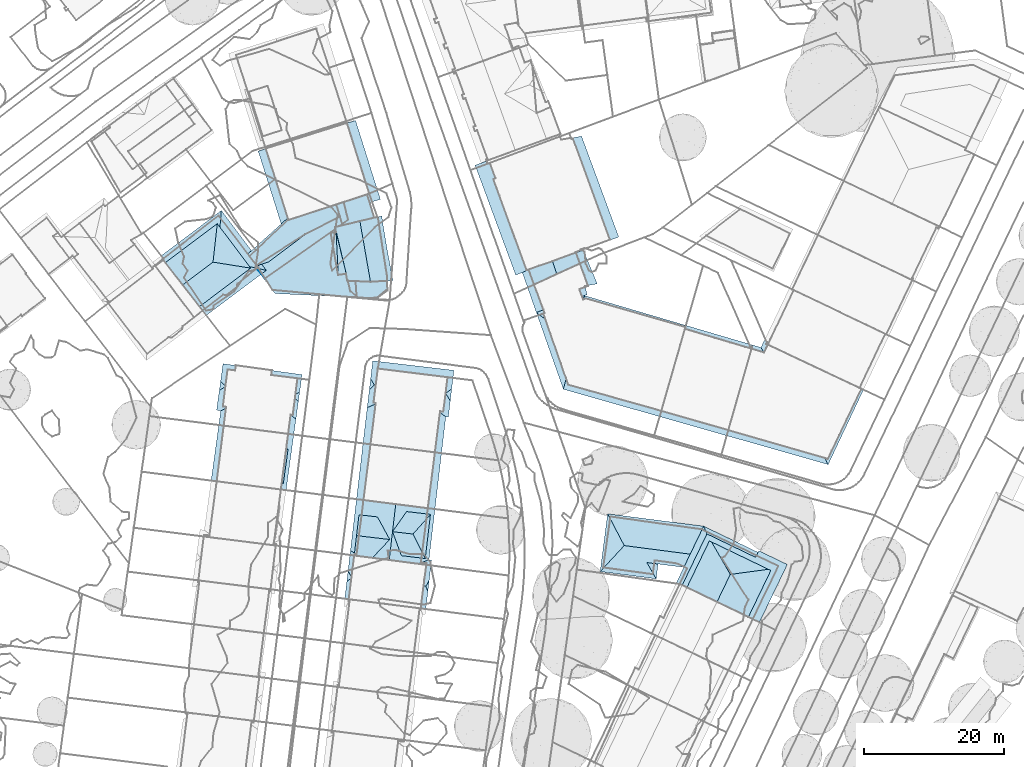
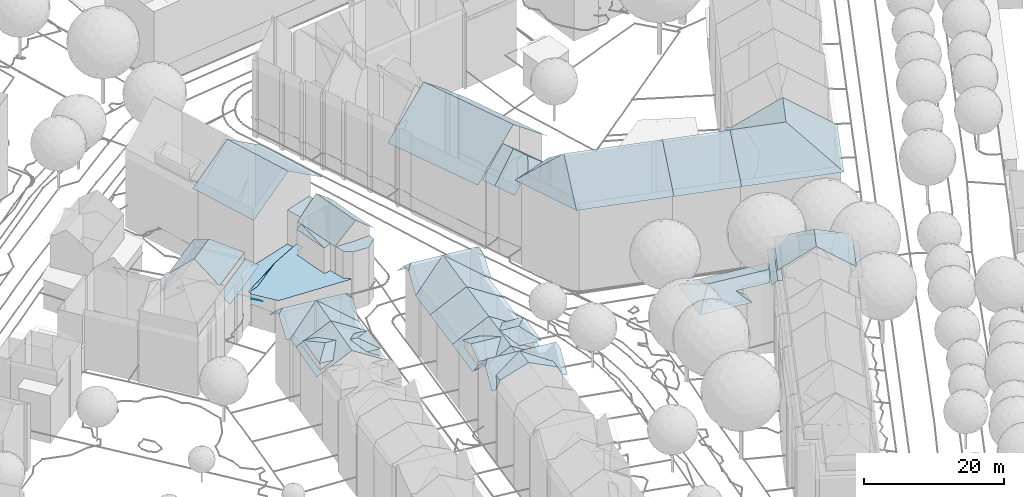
# Not in any storey, part 68 of 494: 24 roofs.
"""IFC2X3 model written with IfcOpenShell, lengths in metres."""

from ifc_helpers import new_model, si_unit, frame, origin_with_axes, place, context, subcontext, project, faceted_brep, element, save


model = new_model("IFC2X3")

# Units and contexts
model_context = context("Model", 3, precision=1e-05, world=origin_with_axes())
body_context = subcontext(model_context, "Body", "Model", "MODEL_VIEW")
ifc_project = project(units=[si_unit("AREAUNIT", "SQUARE_METRE"), si_unit("LENGTHUNIT", "METRE")], contexts=[model_context])

# Roofs
roof_1_placement = place(None, frame((497.3297320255, 81.7703160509, 498.9665), z_axis=(0.0, 0.0, 1.0), x_axis=(1.0, 0.0, 0.0)))
element("IfcRoof", 1, at=roof_1_placement, Name="Roof 0", ShapeType="NOTDEFINED", context=body_context, shape_type="Brep", body=[
    faceted_brep([(6.2120000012, 0.7344000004, 12.2968), (2.9840000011, 3.1582000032, 13.1607), (7.0950000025, -0.8056999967, 11.5669), (6.9140000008, -0.931599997, 11.4689), (7.5419999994, -1.5858999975, 11.1979), (7.2840000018, 0.5957000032, 12.2968), (7.8139999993, 0.5263999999, 12.2968), (7.8139999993, 0.5263999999, 11.1979), (7.2840000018, 0.5957000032, 11.5619), (6.5040000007, 0.6963, 12.0968), (0.0540000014, -0.0067999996, 11.4879), (-0.4529999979, -0.5546999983, 11.1979), (0.9920000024, 6.9688000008, 11.5129), (0.6110000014, 7.6963, 11.1979), (12.9900000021, 5.6045000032, 11.4279), (14.319000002, 5.9297000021, 11.1979), (12.3940000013, 1.9346000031, 13.1607), (11.4880000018, 0.0537, 12.2968), (11.5140000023, 0.1094000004, 12.3228)], [[[0, 1, 2]], [[3, 4, 2]], [[3, 2, 1]], [[5, 6, 1]], [[1, 0, 5]], [[4, 7, 2]], [[2, 7, 8]], [[9, 0, 2]], [[9, 2, 8]], [[10, 11, 3]], [[10, 3, 1]], [[3, 11, 4]], [[12, 13, 10]], [[10, 1, 12]], [[11, 10, 13]], [[14, 15, 13]], [[12, 1, 14]], [[13, 12, 14]], [[14, 1, 16]], [[14, 16, 15]], [[17, 18, 1]], [[1, 6, 17]], [[1, 18, 16]]]),
])
roof_2_placement = place(None, frame((497.3297320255, 81.7703160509, 498.9665), z_axis=(0.0, 0.0, 1.0), x_axis=(1.0, 0.0, 0.0)))
element("IfcRoof", 2, at=roof_2_placement, Name="Roof 1", ShapeType="NOTDEFINED", context=body_context, shape_type="Brep", body=[
    faceted_brep([(14.7829999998, 4.8262000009, 14.2666), (21.7360000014, 1.4785000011, 14.2666), (21.8320000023, 1.6797000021, 14.0666), (21.8530000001, 1.7226999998, 14.0236), (14.6390000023, 5.1670000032, 14.0466), (22.0789999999, 2.1914000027, 13.5567), (14.319000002, 5.9297000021, 13.5567), (11.2479999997, -2.5136999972, 14.2666), (11.9240000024, -2.8388999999, 14.2666), (15.1330000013, 3.8252000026, 14.2666), (23.9020000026, -0.3983999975, 14.2666), (20.6960000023, -7.0546999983, 14.2666), (22.2730000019, -7.8125, 14.2666), (22.1889999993, 2.4219000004, 14.2666), (26.2580000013, 0.4609000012, 14.2666), (10.9480000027, -2.369099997, 14.0036), (10.3610000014, -2.2861000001, 13.5567), (10.9070000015, -2.3632999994, 13.9726), (11.5160000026, 0.1104000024, 13.5567), (14.0810000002, 5.4346000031, 13.5567)], [[[0, 1, 2]], [[2, 3, 4]], [[5, 4, 3]], [[4, 5, 6]], [[0, 2, 4]], [[7, 8, 9]], [[7, 9, 0]], [[1, 0, 9]], [[10, 11, 12]], [[10, 13, 1]], [[14, 13, 10]], [[10, 1, 9]], [[10, 12, 14]], [[15, 7, 0]], [[16, 17, 18]], [[15, 4, 17]], [[4, 18, 17]], [[19, 18, 4]], [[6, 19, 4]], [[4, 15, 0]]]),
])
roof_3_placement = place(None, frame((497.3297320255, 81.7703160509, 498.9665), z_axis=(0.0, 0.0, 1.0), x_axis=(1.0, 0.0, 0.0)))
element("IfcRoof", 3, at=roof_3_placement, Name="Roof 2", ShapeType="NOTDEFINED", context=body_context, shape_type="Brep", body=[
    faceted_brep([(20.6960000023, -7.0546999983, 16.6283), (21.3720000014, -7.3798999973, 16.1304), (23.5510000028, -0.2294999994, 16.8863), (16.2129999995, -4.8993999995, 19.927), (18.1119999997, -0.9569999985, 19.927), (24.9030000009, -0.0487999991, 16.1304), (15.4460000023, 3.6748000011, 16.8863), (14.7829999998, 4.8262000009, 16.1304), (11.2479999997, -2.5136999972, 16.1304), (11.9240000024, -2.8388999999, 16.6474), (21.0140000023, 0.9932000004, 16.8863), (21.7360000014, 1.4785000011, 16.1304)], [[[0, 1, 2]], [[3, 0, 4]], [[2, 4, 0]], [[5, 2, 1]], [[6, 7, 8]], [[4, 6, 9]], [[4, 9, 3]], [[9, 6, 8]], [[10, 11, 6]], [[6, 4, 10]], [[7, 6, 11]], [[10, 4, 2]], [[10, 5, 11]], [[5, 10, 2]]]),
])
roof_4_placement = place(None, frame((442.1807320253, 94.0682160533, 499.5705), z_axis=(0.0, 0.0, 1.0), x_axis=(1.0, 0.0, 0.0)))
element("IfcRoof", 4, at=roof_4_placement, Name="Roof 0", ShapeType="NOTDEFINED", context=body_context, shape_type="Brep", body=[
    faceted_brep([(10.1900000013, 6.7645999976, 11.8809), (5.6590000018, 7.3456999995, 14.5366), (8.075000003, 4.927699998, 12.9527), (6.1710000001, 2.7567999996, 13.8767), (8.4150000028, 4.8797999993, 12.7528), (10.9720000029, 6.6640000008, 11.4229), (9.9170000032, 4.6688999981, 11.8708), (9.8740000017, -1.2646999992, 11.4229), (4.5610000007, -0.5840000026, 14.5366), (7.3949999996, 0.0174999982, 12.9527), (9.1579999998, -1.1729000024, 11.8428), (9.2780000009, -0.2470999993, 11.8468), (7.7360000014, -0.0303000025, 12.7528), (0.9990000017, 7.9422999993, 11.8429), (0.2730000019, 8.0350999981, 11.4229), (0.8740000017, 6.9442999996, 11.8499), (0.6770000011, 5.4061999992, 11.8589), (0.443, 3.5506999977, 11.8729), (2.5789999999, 6.7148000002, 12.8368), (2.9250000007, 6.6678999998, 13.0367), (4.2470000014, 3.4217999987, 14.0426), (0.0990000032, 0.7909999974, 11.8939), (-0.8249999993, 0.1053999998, 11.4229), (0.0, 0.0, 11.8999), (2.075000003, 0.5233999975, 13.0367), (1.7280000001, 0.5702999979, 12.8368), (0.8740000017, 6.9442999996, 13.0367), (0.8420000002, 6.9481999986, 13.0367), (2.6030000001, 3.6435000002, 14.0426), (-0.0079999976, 0.8055999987, 13.0367), (0.1000000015, 0.7909999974, 13.0367), (9.2780000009, -0.2470999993, 12.9527), (9.4850000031, -0.2763999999, 12.9527), (7.3030000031, 2.5975999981, 13.8767), (10.1650000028, 4.6338, 12.9527), (9.9170000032, 4.6688999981, 12.9527), (8.9620000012, -0.2032000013, 12.9027)], [[[0, 1, 2]], [[2, 1, 3]], [[0, 2, 4]], [[5, 0, 6]], [[6, 0, 4]], [[5, 6, 7]], [[3, 8, 9]], [[8, 3, 1]], [[9, 8, 10]], [[11, 12, 10]], [[10, 7, 11]], [[12, 9, 10]], [[11, 7, 6]], [[13, 14, 15]], [[16, 15, 14]], [[14, 17, 16]], [[13, 15, 18]], [[1, 19, 20]], [[1, 13, 19]], [[13, 18, 19]], [[1, 20, 8]], [[21, 17, 22]], [[21, 22, 23]], [[17, 14, 22]], [[24, 25, 23]], [[23, 8, 24]], [[25, 21, 23]], [[8, 20, 24]], [[26, 27, 28]], [[19, 28, 20]], [[28, 19, 26]], [[27, 29, 28]], [[20, 28, 24]], [[24, 28, 30]], [[29, 30, 28]], [[31, 32, 33]], [[31, 3, 9]], [[3, 31, 33]], [[34, 33, 32]], [[2, 3, 35]], [[35, 3, 33]], [[34, 35, 33]], [[36, 31, 12]]]),
])
roof_5_placement = place(None, frame((443.0627320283, 104.7566160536, 499.5705), z_axis=(0.0, 0.0, 1.0), x_axis=(1.0, 0.0, 0.0)))
element("IfcRoof", 5, at=roof_5_placement, Name="Roof 0", ShapeType="NOTDEFINED", context=body_context, shape_type="Brep", body=[
    faceted_brep([(10.3999999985, -1.7851000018, 11.4229), (10.75, 0.745199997, 13.8817), (9.6659999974, -1.1816000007, 11.8959), (10.0899999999, -4.0243999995, 11.4229), (4.7769999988, -3.3427000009, 14.5366), (9.3079999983, -3.9238000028, 11.8809), (9.8779999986, 1.5517999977, 14.5366), (5.5379999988, 2.1534000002, 14.5366), (10.2789999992, 1.1807000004, 14.2356), (6.987999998, 5.1581999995, 11.4229), (10.3559999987, 1.7900999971, 14.2416), (10.9349999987, 2.0771999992, 13.8847), (11.2789999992, 4.5634999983, 11.4229), (-0.9220000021, -0.4970000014, 11.4229), (-0.3220000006, -0.5800000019, 11.4229), (0.4339999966, -0.2275000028, 11.8249), (-0.5320000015, 2.3066999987, 13.9337), (0.3449999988, 2.8720999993, 14.5366), (0.1169999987, -2.746100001, 11.8429), (-0.6090000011, -2.6533000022, 11.4229), (1.8369999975, 5.8720999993, 11.4229), (-0.3490000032, 3.6376999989, 13.8847), (-0.0050000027, 6.1270000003, 11.4229)], [[[0, 1, 2]], [[2, 3, 0]], [[2, 4, 5]], [[3, 2, 5]], [[6, 7, 2]], [[8, 2, 1]], [[2, 8, 6]], [[6, 9, 7]], [[9, 6, 10]], [[8, 1, 11]], [[8, 10, 6]], [[10, 8, 11]], [[11, 9, 10]], [[9, 11, 12]], [[13, 14, 15]], [[13, 15, 7]], [[16, 7, 17]], [[7, 16, 13]], [[4, 7, 18]], [[18, 7, 15]], [[19, 18, 15]], [[19, 15, 14]], [[4, 2, 7]], [[20, 7, 9]], [[7, 20, 17]], [[17, 20, 21]], [[21, 20, 22]], [[21, 16, 17]]]),
])
roof_6_placement = place(None, frame((461.8007320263, 83.4783160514, 499.4055), z_axis=(0.0, 0.0, 1.0), x_axis=(1.0, 0.0, 0.0)))
element("IfcRoof", 6, at=roof_6_placement, Name="Roof 0", ShapeType="NOTDEFINED", context=body_context, shape_type="Brep", body=[
    faceted_brep([(9.5089999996, 0.8262000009, 14.3076), (10.1209999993, -0.3915999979, 13.9566), (10.8610000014, 5.9033000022, 13.9566), (9.9910000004, 4.9209000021, 14.3076), (8.3709999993, 3.0938000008, 14.9615), (6.9670000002, 5.6055000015, 14.1996), (5.443, 3.438500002, 14.9525), (7.4580000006, 6.3037, 13.9566), (6.425999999, 0.7989000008, 14.1856), (6.7199999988, 0.0088, 13.9566)], [[[0, 1, 2]], [[3, 4, 0]], [[2, 3, 0]], [[5, 6, 2]], [[3, 6, 4]], [[5, 2, 7]], [[2, 6, 3]], [[6, 8, 4]], [[4, 8, 0]], [[9, 1, 0]], [[9, 0, 8]]]),
])
roof_7_placement = place(None, frame((461.8007320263, 83.4783160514, 499.4055), z_axis=(0.0, 0.0, 1.0), x_axis=(1.0, 0.0, 0.0)))
element("IfcRoof", 7, at=roof_7_placement, Name="Roof 1", ShapeType="NOTDEFINED", context=body_context, shape_type="Brep", body=[
    faceted_brep([(5.0480000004, 2.3164000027, 14.7936), (0.313000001, 2.8731000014, 14.7936), (2.6339999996, -0.2421999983, 13.5367), (0.0080000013, 0.0655000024, 13.5367), (-0.0170000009, 0.0683999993, 13.5367), (0.6620000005, 5.8487000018, 13.5367), (1.0560000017, 5.8027999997, 13.5367), (3.300999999, 5.5391000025, 13.5367), (4.6330000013, 3.0742000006, 14.4976), (5.443, 3.438500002, 14.9525), (5.9039999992, 7.3311000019, 14.9505), (4.6160000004, 7.4951000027, 14.1796), (1.3229999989, 7.9131000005, 12.1988), (0.2989999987, 8.0439999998, 11.5829), (1.0560000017, 5.8027999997, 12.1878), (-0.5590000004, 0.7412, 11.5829), (2.9679999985, 5.5780999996, 13.3367), (4.9730000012, -0.6435000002, 14.9465), (0.2300000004, 0.2237000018, 12.0838), (0.4750000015, 1.2061000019, 12.1638), (2.3000000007, -0.2040999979, 13.3367), (0.7069999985, -0.0918000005, 12.3868), (0.569000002, -0.0009999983, 12.2988), (0.3489999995, 0.2071000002, 12.1558), (6.1099999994, 3.8740000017, 14.5876), (7.300999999, 5.5664000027, 13.9996), (5.7749999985, 3.3993999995, 14.7536), (6.0560000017, 2.6504000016, 14.5336), (11.4979999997, 6.6220999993, 11.5829), (8.4849999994, 5.4277999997, 13.2867), (10.0289999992, 5.246100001, 12.3588), (10.6519999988, -0.5760999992, 11.5828), (6.4120000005, 1.7050999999, 14.2576), (7.6070000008, 0.6572000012, 13.4747), (6.7589999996, 0.759800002, 13.9856), (9.0280000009, -1.1699000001, 12.5048), (9.4640000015, 0.4405000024, 12.3588), (8.0520000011, 0.6055000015, 13.2077), (9.5230000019, -0.9912, 12.2248), (0.0080000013, 0.0655000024, 12.2988), (-0.6359999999, 0.0821000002, 12.3678), (0.0320000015, 0.2481000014, 12.0808), (10.2780000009, -1.3319999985, 12.5228), (10.9290000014, -1.4169999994, 12.5328), (11.0219999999, -0.6191000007, 11.5828), (4.9730000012, -0.6436999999, 14.7466), (2.6339999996, -0.2421999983, 13.3367), (2.6400000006, -0.2430999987, 13.3407)], [[[0, 1, 2]], [[2, 1, 3]], [[3, 1, 4]], [[5, 1, 6]], [[7, 1, 8]], [[6, 1, 7]], [[8, 1, 0]], [[9, 10, 11]], [[12, 13, 14]], [[14, 13, 15]], [[11, 12, 16]], [[14, 16, 12]], [[9, 8, 0]], [[8, 9, 7]], [[17, 0, 2]], [[9, 0, 17]], [[16, 7, 11]], [[9, 11, 7]], [[15, 18, 19]], [[19, 14, 15]], [[2, 20, 21]], [[2, 21, 17]], [[21, 20, 22]], [[18, 23, 19]], [[10, 24, 25]], [[24, 10, 9]], [[9, 26, 24]], [[26, 9, 27]], [[28, 29, 30]], [[28, 10, 29]], [[10, 25, 29]], [[28, 30, 31]], [[32, 27, 17]], [[33, 34, 17]], [[17, 34, 32]], [[33, 17, 35]], [[27, 9, 17]], [[36, 37, 35]], [[36, 38, 31]], [[38, 36, 35]], [[37, 33, 35]], [[36, 31, 30]], [[21, 22, 39]], [[21, 39, 40]], [[15, 41, 18]], [[15, 39, 41]], [[39, 15, 40]], [[42, 43, 31]], [[31, 43, 44]], [[38, 35, 42]], [[31, 38, 42]], [[45, 46, 47]]]),
])
roof_8_placement = place(None, frame((463.1237320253, 91.3914160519, 499.4055), z_axis=(0.0, 0.0, 1.0), x_axis=(1.0, 0.0, 0.0)))
element("IfcRoof", 8, at=roof_8_placement, Name="Roof 0", ShapeType="NOTDEFINED", context=body_context, shape_type="Brep", body=[
    faceted_brep([(5.5230000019, 7.3867000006, 14.9476), (1.6009999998, 7.875, 12.5998), (4.5810000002, -0.5810000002, 14.9505), (3.2930000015, -0.4179999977, 14.1796), (9.182, -1.1649999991, 12.1808), (10.1920000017, 6.8047000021, 12.1368), (10.1750000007, -1.2910000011, 11.5829), (11.1119999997, 6.6895000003, 11.5829), (0.0, 0.0, 12.1988), (-0.0889999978, 8.0888999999, 11.5829), (-1.0240000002, 0.1308999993, 11.5829), (1.0050000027, 7.9501999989, 12.2408), (0.2460000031, 8.0459000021, 11.6729), (0.756000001, 7.9824000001, 12.0408)], [[[0, 1, 2]], [[3, 2, 1]], [[4, 0, 2]], [[5, 4, 6]], [[5, 0, 4]], [[5, 6, 7]], [[8, 9, 10]], [[11, 8, 3]], [[11, 9, 8]], [[1, 11, 3]], [[12, 11, 13]]]),
])
roof_9_placement = place(None, frame((461.0127320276, 77.240016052, 499.4055), z_axis=(0.0, 0.0, 1.0), x_axis=(1.0, 0.0, 0.0)))
element("IfcRoof", 9, at=roof_9_placement, Name="Roof 0", ShapeType="NOTDEFINED", context=body_context, shape_type="Brep", body=[
    faceted_brep([(5.5199999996, 3.4990999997, 14.9435), (9.8159999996, 5.0683999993, 12.5048), (5.7609999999, 5.5947999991, 14.9465), (1.4949999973, 6.1464999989, 12.3868), (5.0350000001, -0.6435000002, 16.0924), (5.4079999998, 2.5342000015, 16.0924), (0.8099999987, 1.3047000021, 14.2016), (0.6469999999, -0.0830000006, 14.2016), (9.4769999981, -1.2098999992, 14.1246), (9.6499999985, 0.2657000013, 14.1246), (10.9949999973, 1.8770000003, 16.0924), (11.4699999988, 2.7188000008, 15.0385), (0.3979999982, 3.1220999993, 16.0924), (-0.1110000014, 4.0800999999, 15.0385), (0.7879999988, 6.2382999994, 12.3768), (0.1519999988, 6.3203999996, 12.3678), (11.0659999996, 4.9052999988, 12.5228), (11.7170000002, 4.8213, 12.5328), (11.2839999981, 1.1358000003, 15.3065), (10.9859999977, -1.4023000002, 12.4458), (10.2249999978, -1.3055999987, 12.4538), (10.2780000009, -1.3125, 12.4538), (0.1349999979, -0.0185000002, 12.7047), (0.0, 0.0, 12.7067), (-0.5820000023, 0.0733000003, 12.7127), (-0.2970000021, 2.496100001, 15.3365)], [[[0, 1, 2]], [[3, 0, 2]], [[4, 5, 6]], [[6, 7, 4]], [[8, 9, 5]], [[5, 4, 8]], [[10, 0, 5]], [[11, 0, 10]], [[0, 12, 5]], [[0, 13, 12]], [[13, 3, 14]], [[13, 0, 3]], [[13, 14, 15]], [[0, 11, 1]], [[1, 11, 16]], [[16, 11, 17]], [[18, 11, 10]], [[9, 19, 18]], [[18, 10, 9]], [[5, 9, 10]], [[20, 21, 9]], [[9, 21, 19]], [[20, 9, 8]], [[6, 22, 7]], [[23, 22, 6]], [[24, 23, 6]], [[6, 5, 12]], [[12, 25, 6]], [[6, 25, 24]], [[13, 25, 12]]]),
])
roof_10_placement = place(None, frame((464.128732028, 99.3416160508, 499.4055), z_axis=(0.0, 0.0, 1.0), x_axis=(1.0, 0.0, 0.0)))
element("IfcRoof", 10, at=roof_10_placement, Name="Roof 0", ShapeType="NOTDEFINED", context=body_context, shape_type="Brep", body=[
    faceted_brep([(5.5219999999, 7.9248000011, 14.9436), (11.3640000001, 6.2295000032, 13.9347), (10.7149999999, 7.3154000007, 14.9436), (9.9100000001, 4.568400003, 12.1058), (10.7190000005, 3.9502000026, 11.5829), (11.0899999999, 3.9072000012, 11.5829), (11.568, 7.9678000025, 14.2026), (-0.0050000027, 9.3984000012, 14.1346), (11.8779999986, 10.5986000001, 11.5829), (0.5119999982, 8.5137000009, 14.9436), (0.2949999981, 11.9600000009, 11.5829), (-0.4910000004, 5.2675999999, 11.5829), (0.7339999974, 5.8096000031, 12.2678), (-0.1950000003, 7.7920000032, 14.1396), (4.5179999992, -0.5625, 14.9476), (0.2229999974, 1.7637000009, 12.2498), (0.5969999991, -0.0741999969, 12.5998), (9.186999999, -1.1454999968, 12.1368), (10.106999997, -1.2606999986, 11.5829), (-1.0940000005, 0.1387000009, 11.5829), (0.0, 0.0, 12.2408)], [[[0, 1, 2]], [[1, 0, 3]], [[3, 4, 5]], [[3, 5, 1]], [[0, 6, 7]], [[0, 2, 6]], [[6, 8, 7]], [[7, 9, 0]], [[7, 8, 10]], [[11, 12, 13]], [[13, 12, 0]], [[0, 9, 13]], [[14, 15, 16]], [[15, 14, 12]], [[15, 12, 11]], [[12, 14, 0]], [[3, 0, 14]], [[4, 3, 17]], [[17, 18, 4]], [[14, 17, 3]], [[15, 11, 19]], [[20, 16, 15]], [[20, 15, 19]], [[1, 6, 2]], [[7, 13, 9]]]),
])
roof_11_placement = place(None, frame((449.1887320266, 141.5721160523, 498.8726), z_axis=(0.0, 0.0, 1.0), x_axis=(1.0, 0.0, 0.0)))
element("IfcRoof", 11, at=roof_11_placement, Name="Roof 0", ShapeType="NOTDEFINED", context=body_context, shape_type="Brep", body=[
    faceted_brep([(16.3289999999, -7.2236999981, 14.0316), (9.0549999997, -8.308600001, 18.8312), (9.4019999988, -9.4072999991, 18.8312), (11.5839999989, 3.6523000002, 14.8606), (5.8530000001, 1.8456999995, 18.8312), (12.7800000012, 4.0293000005, 14.0317), (4.1420000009, 1.3055999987, 17.6513), (0.0, 0.0, 14.7966), (2.4400000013, -11.6035000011, 14.0317), (-1.1090000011, -0.3506000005, 14.0317)], [[[0, 1, 2]], [[1, 0, 3]], [[3, 4, 1]], [[0, 5, 3]], [[6, 7, 8]], [[4, 6, 1]], [[8, 1, 6]], [[2, 1, 8]], [[8, 7, 9]]]),
])
roof_12_placement = place(None, frame((446.8647320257, 126.2293160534, 498.9746), z_axis=(0.0, 0.0, 1.0), x_axis=(1.0, 0.0, 0.0)))
element("IfcRoof", 12, at=roof_12_placement, Name="Roof 0", ShapeType="NOTDEFINED", context=body_context, shape_type="Brep", body=[
    faceted_brep([(15.3060000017, -5.8905999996, 5.8744), (15.2950000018, -5.7412, 5.8744), (13.5, -5.8047000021, 5.8744), (14.3969999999, -5.0459000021, 5.8744), (13.9420000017, -3.5371000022, 5.8744), (14.0300000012, -3.5419999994, 5.8744), (7.9330000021, 3.1122999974, 5.8744), (3.6190000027, -5.3330000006, 5.8744), (12.6410000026, -2.6982000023, 5.8744), (13.7829999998, -2.5303000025, 5.8744), (1.2530000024, -1.625, 5.8744), (0.9560000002, -1.8544999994, 5.8744), (11.5960000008, 3.2714999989, 5.8744), (12.3340000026, 3.4003999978, 5.8744), (12.2060000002, 4.1317999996, 5.8744), (13.2910000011, 4.3905999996, 5.8744), (12.9100000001, 5.6386999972, 5.8744), (1.0100000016, -1.3066000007, 5.8744)], [[[0, 1, 2]], [[2, 3, 4]], [[3, 2, 1]], [[5, 4, 3]], [[6, 7, 8]], [[9, 8, 4]], [[4, 8, 2]], [[2, 8, 7]], [[10, 11, 7]], [[12, 13, 14]], [[6, 8, 12]], [[7, 6, 10]], [[15, 16, 14]], [[6, 14, 16]], [[14, 6, 12]], [[17, 10, 6]]]),
])
roof_13_placement = place(None, frame((446.8647320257, 126.2293160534, 498.9746), z_axis=(0.0, 0.0, 1.0), x_axis=(1.0, 0.0, 0.0)))
element("IfcRoof", 13, at=roof_13_placement, Name="Roof 1", ShapeType="NOTDEFINED", context=body_context, shape_type="Brep", body=[
    faceted_brep([(12.3839999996, 7.3612999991, 10.8799), (13.2910000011, 4.3905999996, 10.8799), (17.8020000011, 5.4668000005, 10.8799), (16.7880000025, 8.7919999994, 10.8799)], [[[0, 1, 2]], [[0, 2, 3]]]),
])
roof_14_placement = place(None, frame((446.8647320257, 126.2293160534, 498.9746), z_axis=(0.0, 0.0, 1.0), x_axis=(1.0, 0.0, 0.0)))
element("IfcRoof", 14, at=roof_14_placement, Name="Roof 2", ShapeType="NOTDEFINED", context=body_context, shape_type="Brep", body=[
    faceted_brep([(2.7270000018, -0.7979000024, 5.8744), (7.9330000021, 3.1122999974, 5.8744), (1.0650000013, -1.3789000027, 5.8744), (1.0100000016, -1.3066000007, 5.8744)], [[[0, 1, 2]], [[2, 1, 3]]]),
])
roof_15_placement = place(None, frame((446.8647320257, 126.2293160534, 498.9746), z_axis=(0.0, 0.0, 1.0), x_axis=(1.0, 0.0, 0.0)))
element("IfcRoof", 15, at=roof_15_placement, Name="Roof 3", ShapeType="NOTDEFINED", context=body_context, shape_type="Brep", body=[
    faceted_brep([(1.006000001, -1.8154000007, 4.9995), (2.2050000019, -3.1992000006, 4.9995), (2.2300000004, -3.1816000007, 4.9995), (1.2600000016, -1.6699000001, 4.9995), (1.2530000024, -1.625, 4.9995)], [[[0, 1, 2]], [[0, 2, 3]], [[4, 0, 3]]]),
])
roof_16_placement = place(None, frame((446.8647320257, 126.2293160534, 498.9746), z_axis=(0.0, 0.0, 1.0), x_axis=(1.0, 0.0, 0.0)))
element("IfcRoof", 16, at=roof_16_placement, Name="Roof 4", ShapeType="NOTDEFINED", context=body_context, shape_type="Brep", body=[
    faceted_brep([(5.5620000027, 5.1444999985, 4.9995), (-0.2479999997, 0.3398000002, 4.9995), (6.7109999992, 5.5175999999, 4.9995), (7.9330000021, 3.1122999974, 4.9995), (0.5140000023, -0.6581999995, 4.9995), (1.0080000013, -1.3076000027, 4.9995), (5.4600000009, 5.4648000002, 4.9995), (12.9100000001, 5.6386999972, 4.9995), (12.3839999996, 7.3612999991, 4.9995)], [[[0, 1, 2]], [[3, 4, 5]], [[2, 1, 4]], [[0, 6, 1]], [[3, 7, 8]], [[8, 2, 3]], [[4, 3, 2]]]),
])
roof_17_placement = place(None, frame((446.8647320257, 126.2293160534, 498.9746), z_axis=(0.0, 0.0, 1.0), x_axis=(1.0, 0.0, 0.0)))
element("IfcRoof", 17, at=roof_17_placement, Name="Roof 5", ShapeType="NOTDEFINED", context=body_context, shape_type="Brep", body=[
    faceted_brep([(18.8470000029, 2.1182000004, 11.9148), (15.7310000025, 4.9726999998, 14.0676), (19.0940000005, 0.5263999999, 11.9398), (19.5219999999, 1.5, 11.4479), (17.2440000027, -3.6895000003, 14.0676), (18.8489999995, 5.7245999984, 11.4479), (18.5840000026, 3.8134999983, 11.8978), (19.1760000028, 3.5722999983, 11.4479), (13.7829999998, -2.5303000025, 10.556), (12.2060000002, 4.1317999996, 10.9209), (12.3340000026, 3.4003999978, 10.9209), (12.6410000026, -2.6982000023, 10.268), (11.5960000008, 3.2714999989, 10.268), (19.6130000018, -2.8115000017, 10.556), (19.6220000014, -2.2129000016, 10.556), (19.5170000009, -2.1933999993, 10.556), (19.637000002, -3.5371000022, 10.5559), (17.9519999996, -6.1152000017, 10.5559), (19.6750000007, -4.6504000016, 10.5559), (17.2440000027, -3.6895000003, 10.556), (14.1300000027, -3.5469000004, 10.556), (14.0300000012, -3.5419999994, 10.556), (14.3969999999, -5.0459000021, 10.556), (15.5030000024, -5.9033000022, 10.556), (19.9039999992, -0.5928000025, 11.4479), (19.637000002, -3.5371000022, 12.1198), (20.4629999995, -3.4854000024, 11.4479), (13.9420000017, -3.5371000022, 10.556)], [[[0, 1, 2]], [[2, 3, 0]], [[4, 2, 1]], [[5, 1, 6]], [[7, 5, 6]], [[6, 1, 0]], [[6, 3, 7]], [[3, 6, 0]], [[8, 1, 9]], [[8, 9, 10]], [[10, 11, 8]], [[11, 10, 12]], [[13, 14, 15]], [[14, 13, 16]], [[17, 18, 19]], [[16, 18, 14]], [[16, 19, 18]], [[20, 21, 22]], [[19, 20, 22]], [[23, 17, 19]], [[22, 23, 19]], [[3, 2, 24]], [[24, 2, 4]], [[25, 26, 24]], [[4, 25, 24]], [[4, 8, 27]], [[4, 1, 8]]]),
])
roof_18_placement = place(None, frame((434.486732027, 125.7898160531, 500.0045), z_axis=(0.0, 0.0, 1.0), x_axis=(1.0, 0.0, 0.0)))
element("IfcRoof", 18, at=roof_18_placement, Name="Roof 0", ShapeType="NOTDEFINED", context=body_context, shape_type="Brep", body=[
    faceted_brep([(13.4769999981, -1.3037, 10.429), (14.748999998, -1.5868999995, 9.4911), (8.2419999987, 5.8652999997, 10.295), (12.3649999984, -1.057599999, 11.2489), (8.1330000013, 4.5751999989, 11.2489), (8.3339999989, 6.9521999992, 9.4911), (7.754999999, 5.0790999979, 10.626), (0.0, 0.0, 10.036), (-0.3390000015, 0.4355999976, 9.4911), (0.3669999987, -0.4715999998, 10.626), (5.2340000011, -6.7412, 11.0019), (5.7010000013, -7.3418000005, 10.281), (6.2139999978, -8.0, 9.4911), (12.5219999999, -1.2666000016, 11.0009), (5.7230000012, -7.3709999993, 10.225), (5.9699999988, -7.6884000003, 9.7161)], [[[0, 1, 2]], [[3, 0, 4]], [[0, 2, 4]], [[2, 1, 5]], [[6, 2, 7]], [[6, 4, 2]], [[2, 5, 7]], [[8, 7, 5]], [[7, 9, 6]], [[0, 10, 11]], [[1, 11, 12]], [[0, 13, 10]], [[3, 13, 0]], [[0, 11, 1]], [[14, 15, 11]]]),
])
roof_19_placement = place(None, frame((434.486732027, 125.7898160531, 500.0045), z_axis=(0.0, 0.0, 1.0), x_axis=(1.0, 0.0, 0.0)))
element("IfcRoof", 19, at=roof_19_placement, Name="Roof 1", ShapeType="NOTDEFINED", context=body_context, shape_type="Brep", body=[
    faceted_brep([(7.1429999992, -0.4149999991, 15.9985), (7.754999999, 5.0790999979, 12.3068), (2.8359999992, -3.6513000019, 15.9985), (0.3669999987, -0.4715999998, 12.3068), (5.2349999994, -6.7402000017, 12.3068), (12.5219999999, -1.2666000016, 12.3068)], [[[0, 1, 2]], [[3, 2, 1]], [[2, 4, 0]], [[5, 0, 4]], [[5, 1, 0]]]),
])
roof_20_placement = place(None, frame((487.4747320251, 122.1688160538, 499.2035), z_axis=(0.0, 0.0, 1.0), x_axis=(1.0, 0.0, 0.0)))
element("IfcRoof", 20, at=roof_20_placement, Name="Roof 0", ShapeType="NOTDEFINED", context=body_context, shape_type="Brep", body=[
    faceted_brep([(3.0880000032, -2.9942000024, 15.1116), (6.0670000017, -1.9502000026, 15.1266), (4.068, -1.1172000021, 16.3534), (7.131000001, -0.4268000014, 13.6107), (7.2820000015, -0.2120000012, 13.3967), (6.6340000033, -1.1387000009, 14.3186), (7.268000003, -0.3780000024, 13.4597), (6.8380000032, -1.6797000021, 14.2776), (7.1680000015, -1.5645000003, 13.9137), (6.2380000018, -1.889700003, 14.9386), (7.3110000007, -0.3624000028, 13.4137), (7.518000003, -1.443400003, 13.5397), (-0.9479999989, -0.4327000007, 12.4748), (0.2930000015, -3.9717000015, 12.5198), (0.0, 0.0, 13.3597), (1.2060000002, -3.2823000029, 13.4467), (1.1850000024, 0.5418999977, 14.4666), (2.8800000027, -3.067400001, 14.9186), (1.3260000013, -3.6104000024, 13.4777), (5.9079999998, 2.7010999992, 13.7527), (3.2160000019, 1.4706999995, 16.3534), (6.5460000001, 2.9930999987, 13.1358), (7.200000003, 1.2010999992, 13.0778), (7.0810000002, 3.2381999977, 12.6178), (7.6860000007, -0.1328999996, 13.1068), (8.9880000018, 0.1209999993, 12.1738), (7.5910000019, 3.4706999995, 12.2158), (7.1680000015, -1.5645000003, 15.2035), (6.8380000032, -1.6797000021, 15.1806), (7.0670000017, -2.1124000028, 15.6325), (5.9370000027, -8.2120000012, 20.415), (1.6060000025, -4.9581000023, 16.4154), (1.3260000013, -3.6104000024, 15.1696), (0.2930000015, -3.9717000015, 15.2036), (18.7540000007, -15.9415000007, 17.5013), (4.5580000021, -13.3887000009, 16.3984), (7.9940000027, -15.1963, 15.8085), (19.8289999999, -12.2071000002, 20.415), (4.1469999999, -14.9288000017, 15.2035), (17.9180000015, -18.8438000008, 15.2035), (18.1469999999, -18.0508000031, 15.8315), (21.5870000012, -6.1016000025, 15.4225), (21.6650000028, -5.8300999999, 15.2035), (20.8560000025, -8.6416999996, 17.4713)], [[[0, 1, 2]], [[3, 4, 2]], [[5, 2, 1]], [[2, 5, 3]], [[4, 3, 6]], [[7, 8, 6]], [[6, 3, 5]], [[5, 1, 9]], [[9, 7, 5]], [[5, 7, 6]], [[10, 4, 6]], [[6, 8, 11]], [[6, 11, 10]], [[12, 13, 14]], [[14, 13, 15]], [[15, 16, 14]], [[16, 15, 2]], [[2, 17, 0]], [[17, 2, 18]], [[15, 13, 18]], [[15, 18, 2]], [[2, 19, 20]], [[16, 2, 20]], [[21, 19, 22]], [[23, 21, 22]], [[22, 2, 4]], [[2, 22, 19]], [[24, 25, 22]], [[4, 24, 22]], [[25, 23, 22]], [[23, 25, 26]], [[27, 28, 29]], [[30, 29, 28]], [[30, 28, 1]], [[30, 1, 0]], [[31, 30, 32]], [[32, 33, 31]], [[32, 30, 0]], [[34, 35, 36]], [[30, 34, 37]], [[35, 38, 36]], [[30, 35, 34]], [[36, 38, 39]], [[40, 34, 36]], [[40, 36, 39]], [[29, 30, 41]], [[27, 29, 42]], [[41, 42, 29]], [[41, 30, 43]], [[43, 30, 37]], [[31, 33, 38]], [[31, 35, 30]], [[35, 31, 38]]]),
])
roof_21_placement = place(None, frame((515.185732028, 101.369916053, 499.2035), z_axis=(0.0, 0.0, 1.0), x_axis=(1.0, 0.0, 0.0)))
element("IfcRoof", 21, at=roof_21_placement, Name="Roof 0", ShapeType="NOTDEFINED", context=body_context, shape_type="Brep", body=[
    faceted_brep([(14.231999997, -4.876000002, 15.2035), (14.7649999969, -2.9169999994, 15.4455), (13.731999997, -3.9717000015, 15.7614), (9.5669999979, 3.5742000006, 20.415), (17.373999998, 6.6651000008, 16.6324), (12.2129999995, 9.0947999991, 20.415), (19.2609999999, 5.7763999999, 15.2035), (18.9919999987, 5.9023999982, 15.4065), (1.1889999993, 4.1543000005, 19.0971), (1.6730000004, 5.8438000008, 20.415), (0.0, 0.0, 15.8104), (-0.2190000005, -0.7675999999, 15.2035), (3.4059999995, 11.9003999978, 15.4165), (2.9729999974, 12.3134999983, 15.2035), (3.1409999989, 11.9307000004, 15.4515), (4.6359999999, 11.8251999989, 15.2035), (5.0739999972, 11.0927999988, 15.6665), (3.3249999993, 11.6152999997, 15.6515), (5.3609999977, 12.3202999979, 15.4895), (5.2579999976, 13.123999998, 15.2035), (5.5109999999, 12.5410000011, 15.5155), (5.6270000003, 12.1952999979, 15.6805)], [[[0, 1, 2]], [[2, 1, 3]], [[3, 4, 5]], [[4, 3, 1]], [[1, 0, 6]], [[7, 4, 1]], [[6, 7, 1]], [[8, 3, 9]], [[10, 3, 8]], [[2, 10, 11]], [[2, 3, 10]], [[0, 2, 11]], [[12, 13, 14]], [[13, 12, 15]], [[3, 16, 9]], [[9, 16, 17]], [[15, 12, 17]], [[15, 17, 16]], [[15, 18, 19]], [[18, 15, 16]], [[20, 19, 18]], [[16, 3, 21]], [[5, 21, 3]], [[16, 21, 18]]]),
])
roof_22_placement = place(None, frame((505.6217320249, 104.1180160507, 499.2035), z_axis=(0.0, 0.0, 1.0), x_axis=(1.0, 0.0, 0.0)))
element("IfcRoof", 22, at=roof_22_placement, Name="Roof 0", ShapeType="NOTDEFINED", context=body_context, shape_type="Brep", body=[
    faceted_brep([(1.682, 5.8437000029, 20.415), (0.6070000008, 2.1093000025, 17.5013), (11.2370000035, 3.0957000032, 20.415), (10.7530000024, 1.4062000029, 19.0971), (9.564000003, -2.7480999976, 15.8104), (0.0, 0.0, 15.8315), (9.3450000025, -3.5156999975, 15.2035), (-0.2289999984, -0.7929999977, 15.2035), (3.3710000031, 11.7080000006, 15.6165), (2.7090000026, 9.4092000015, 17.4713), (12.5370000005, 9.5654000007, 15.2035), (3.518000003, 12.2207000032, 15.2035), (11.9700000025, 9.1406000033, 15.6435), (12.7050000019, 9.1826000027, 15.4515), (12.9700000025, 9.1523000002, 15.4155), (12.8890000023, 8.8672000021, 15.6515)], [[[0, 1, 2]], [[3, 2, 1]], [[4, 3, 5]], [[6, 4, 7]], [[5, 7, 4]], [[1, 5, 3]], [[8, 9, 10]], [[10, 11, 8]], [[10, 9, 12]], [[13, 10, 12]], [[14, 13, 12]], [[9, 2, 12]], [[2, 9, 0]], [[12, 15, 14]], [[15, 12, 2]]]),
])
roof_23_placement = place(None, frame((480.6997320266, 139.8172160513, 499.2146), z_axis=(0.0, 0.0, 1.0), x_axis=(1.0, 0.0, 0.0)))
element("IfcRoof", 23, at=roof_23_placement, Name="Roof 0", ShapeType="NOTDEFINED", context=body_context, shape_type="Brep", body=[
    faceted_brep([(13.7569999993, -12.7177999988, 12.2237), (13.8559999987, -14.4101999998, 12.6067), (14.3660000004, -14.177699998, 12.2047), (12.7490000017, -13.0888999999, 13.1727), (12.887000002, -14.8544999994, 13.5446), (11.5080000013, -13.5458999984, 14.3405), (9.3830000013, -14.3280999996, 16.3423), (11.2459999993, -15.6034999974, 15.1305), (9.9910000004, -16.177699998, 16.3423), (5.7109999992, -15.6210999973, 13.0357), (5.8269999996, -18.0810999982, 12.4637), (6.7749999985, -17.6483999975, 13.3486), (5.9919999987, -15.5165999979, 13.2906), (7.449000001, -14.9941999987, 14.6035), (5.5089999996, -15.6963, 12.8527), (5.0720000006, -15.9287, 12.4357), (7.9600000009, -17.1064999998, 14.4555), (7.4759999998, -14.9706999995, 14.6325), (7.4759999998, -14.9706999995, 14.4325), (7.4600000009, -14.990199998, 14.4145)], [[[0, 1, 2]], [[0, 3, 1]], [[4, 1, 3]], [[5, 6, 7]], [[7, 4, 5]], [[8, 7, 6]], [[5, 4, 3]], [[9, 10, 11]], [[12, 11, 13]], [[9, 11, 12]], [[10, 14, 15]], [[14, 10, 9]], [[16, 8, 6]], [[16, 6, 17]], [[17, 13, 16]], [[16, 13, 11]], [[18, 12, 13]], [[9, 12, 19]]]),
])
roof_24_placement = place(None, frame((480.6997320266, 139.8172160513, 499.2146), z_axis=(0.0, 0.0, 1.0), x_axis=(1.0, 0.0, 0.0)))
element("IfcRoof", 24, at=roof_24_placement, Name="Roof 1", ShapeType="NOTDEFINED", context=body_context, shape_type="Brep", body=[
    faceted_brep([(7.4759999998, -14.9706999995, 14.9875), (5.7789999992, 2.1064000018, 18.3592), (4.0760000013, 1.4844000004, 16.8983), (9.3830000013, -14.3280999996, 16.6083), (11.5080000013, -13.5458999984, 18.4321), (10.3189999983, 3.754900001, 14.4626), (10.6590000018, 3.0088, 14.4156), (12.0729999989, 3.2705000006, 13.2737), (18.8319999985, -10.8574000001, 12.1377), (12.75, -13.0898999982, 17.3642), (13.5210000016, 3.5381000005, 12.1028), (1.818, -4.9560999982, 13.4906), (0.0, 0.0, 13.4767), (-0.8139999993, -0.2978999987, 12.7937), (5.9919999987, -15.5165999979, 13.7146), (5.7100000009, -15.6171999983, 13.4736), (4.1220000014, -16.2861000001, 12.0878), (5.0720000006, -15.9287, 12.9047), (5.5089999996, -15.6963, 13.2996), (-1.6640000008, -0.6171999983, 11.9748)], [[[0, 1, 2]], [[1, 3, 4]], [[3, 1, 0]], [[5, 1, 6]], [[7, 6, 8]], [[1, 9, 6]], [[8, 6, 9]], [[10, 7, 8]], [[9, 1, 4]], [[11, 0, 2]], [[11, 12, 13]], [[12, 11, 2]], [[14, 11, 15]], [[14, 0, 11]], [[11, 13, 16]], [[17, 18, 11]], [[18, 15, 11]], [[17, 11, 16]], [[16, 13, 19]]]),
])

save(model, "model.ifc")
